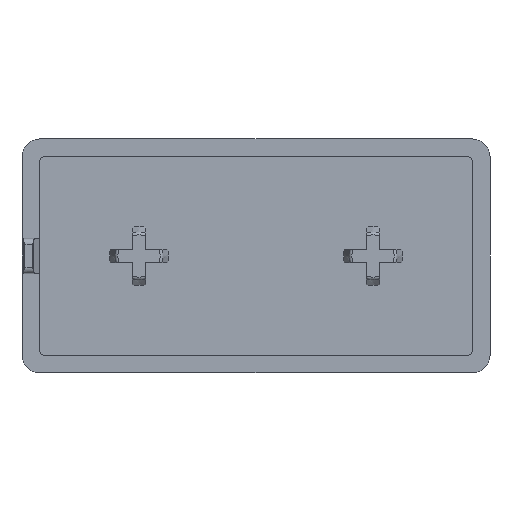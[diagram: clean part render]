
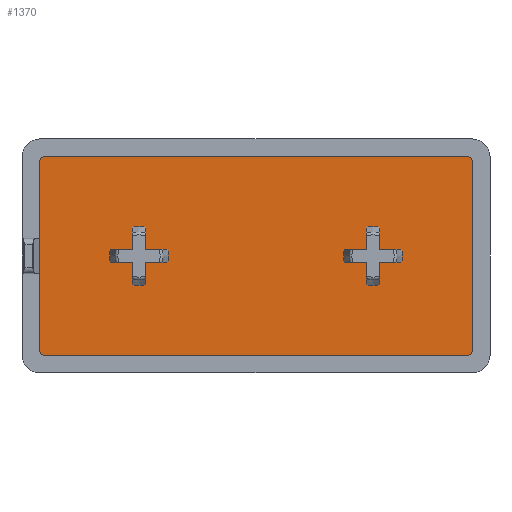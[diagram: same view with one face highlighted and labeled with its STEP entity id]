
A CAD part, front view. The second image highlights one B-rep face of the part: STEP entity #1370.
In plain terms, the highlighted planar face has unit normal (0, -1, 0).
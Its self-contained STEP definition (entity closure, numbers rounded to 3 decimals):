
#87=CIRCLE('',#1438,5.05);
#88=CIRCLE('',#1440,5.05);
#89=CIRCLE('',#1442,5.05);
#90=CIRCLE('',#1444,5.05);
#93=CIRCLE('',#1448,5.05);
#95=CIRCLE('',#1451,5.05);
#122=CIRCLE('',#1503,1.);
#123=CIRCLE('',#1506,1.);
#124=CIRCLE('',#1509,1.);
#125=CIRCLE('',#1512,1.);
#126=CIRCLE('',#1514,5.05);
#127=CIRCLE('',#1515,5.05);
#374=ORIENTED_EDGE('',*,*,#574,.F.);
#375=ORIENTED_EDGE('',*,*,#712,.F.);
#376=ORIENTED_EDGE('',*,*,#710,.F.);
#377=ORIENTED_EDGE('',*,*,#708,.F.);
#378=ORIENTED_EDGE('',*,*,#706,.F.);
#379=ORIENTED_EDGE('',*,*,#704,.F.);
#380=ORIENTED_EDGE('',*,*,#702,.F.);
#381=ORIENTED_EDGE('',*,*,#700,.F.);
#382=ORIENTED_EDGE('',*,*,#713,.F.);
#383=ORIENTED_EDGE('',*,*,#714,.T.);
#384=ORIENTED_EDGE('',*,*,#715,.T.);
#385=ORIENTED_EDGE('',*,*,#632,.F.);
#386=ORIENTED_EDGE('',*,*,#716,.T.);
#387=ORIENTED_EDGE('',*,*,#717,.T.);
#388=ORIENTED_EDGE('',*,*,#626,.F.);
#389=ORIENTED_EDGE('',*,*,#718,.T.);
#390=ORIENTED_EDGE('',*,*,#719,.T.);
#391=ORIENTED_EDGE('',*,*,#636,.F.);
#392=ORIENTED_EDGE('',*,*,#720,.T.);
#393=ORIENTED_EDGE('',*,*,#721,.T.);
#394=ORIENTED_EDGE('',*,*,#722,.F.);
#395=ORIENTED_EDGE('',*,*,#723,.T.);
#396=ORIENTED_EDGE('',*,*,#724,.T.);
#397=ORIENTED_EDGE('',*,*,#624,.F.);
#398=ORIENTED_EDGE('',*,*,#725,.T.);
#399=ORIENTED_EDGE('',*,*,#726,.T.);
#400=ORIENTED_EDGE('',*,*,#621,.F.);
#401=ORIENTED_EDGE('',*,*,#727,.T.);
#402=ORIENTED_EDGE('',*,*,#728,.T.);
#403=ORIENTED_EDGE('',*,*,#618,.F.);
#404=ORIENTED_EDGE('',*,*,#729,.T.);
#405=ORIENTED_EDGE('',*,*,#730,.T.);
#574=EDGE_CURVE('',#779,#780,#911,.T.);
#618=EDGE_CURVE('',#813,#814,#87,.F.);
#621=EDGE_CURVE('',#815,#816,#88,.F.);
#624=EDGE_CURVE('',#817,#818,#89,.F.);
#626=EDGE_CURVE('',#819,#820,#90,.F.);
#632=EDGE_CURVE('',#825,#826,#93,.F.);
#636=EDGE_CURVE('',#829,#830,#95,.F.);
#700=EDGE_CURVE('',#780,#869,#122,.T.);
#702=EDGE_CURVE('',#869,#870,#962,.T.);
#704=EDGE_CURVE('',#870,#871,#123,.T.);
#706=EDGE_CURVE('',#871,#872,#965,.T.);
#708=EDGE_CURVE('',#872,#873,#124,.T.);
#710=EDGE_CURVE('',#873,#874,#968,.T.);
#712=EDGE_CURVE('',#874,#779,#125,.T.);
#713=EDGE_CURVE('',#875,#876,#126,.F.);
#714=EDGE_CURVE('',#875,#877,#970,.T.);
#715=EDGE_CURVE('',#877,#826,#971,.T.);
#716=EDGE_CURVE('',#825,#878,#972,.T.);
#717=EDGE_CURVE('',#878,#820,#973,.T.);
#718=EDGE_CURVE('',#819,#879,#974,.T.);
#719=EDGE_CURVE('',#879,#830,#975,.T.);
#720=EDGE_CURVE('',#829,#880,#976,.T.);
#721=EDGE_CURVE('',#880,#876,#977,.T.);
#722=EDGE_CURVE('',#881,#882,#127,.F.);
#723=EDGE_CURVE('',#881,#883,#978,.T.);
#724=EDGE_CURVE('',#883,#818,#979,.T.);
#725=EDGE_CURVE('',#817,#884,#980,.T.);
#726=EDGE_CURVE('',#884,#816,#981,.T.);
#727=EDGE_CURVE('',#815,#885,#982,.T.);
#728=EDGE_CURVE('',#885,#814,#983,.T.);
#729=EDGE_CURVE('',#813,#886,#984,.T.);
#730=EDGE_CURVE('',#886,#882,#985,.T.);
#779=VERTEX_POINT('',#1947);
#780=VERTEX_POINT('',#1949);
#813=VERTEX_POINT('',#2085);
#814=VERTEX_POINT('',#2087);
#815=VERTEX_POINT('',#2091);
#816=VERTEX_POINT('',#2093);
#817=VERTEX_POINT('',#2097);
#818=VERTEX_POINT('',#2099);
#819=VERTEX_POINT('',#2103);
#820=VERTEX_POINT('',#2104);
#825=VERTEX_POINT('',#2115);
#826=VERTEX_POINT('',#2117);
#829=VERTEX_POINT('',#2124);
#830=VERTEX_POINT('',#2126);
#869=VERTEX_POINT('',#2290);
#870=VERTEX_POINT('',#2294);
#871=VERTEX_POINT('',#2298);
#872=VERTEX_POINT('',#2302);
#873=VERTEX_POINT('',#2306);
#874=VERTEX_POINT('',#2310);
#875=VERTEX_POINT('',#2316);
#876=VERTEX_POINT('',#2317);
#877=VERTEX_POINT('',#2319);
#878=VERTEX_POINT('',#2322);
#879=VERTEX_POINT('',#2325);
#880=VERTEX_POINT('',#2328);
#881=VERTEX_POINT('',#2331);
#882=VERTEX_POINT('',#2332);
#883=VERTEX_POINT('',#2334);
#884=VERTEX_POINT('',#2337);
#885=VERTEX_POINT('',#2340);
#886=VERTEX_POINT('',#2343);
#911=LINE('',#1948,#1020);
#962=LINE('',#2293,#1071);
#965=LINE('',#2301,#1074);
#968=LINE('',#2309,#1077);
#970=LINE('',#2318,#1079);
#971=LINE('',#2320,#1080);
#972=LINE('',#2321,#1081);
#973=LINE('',#2323,#1082);
#974=LINE('',#2324,#1083);
#975=LINE('',#2326,#1084);
#976=LINE('',#2327,#1085);
#977=LINE('',#2329,#1086);
#978=LINE('',#2333,#1087);
#979=LINE('',#2335,#1088);
#980=LINE('',#2336,#1089);
#981=LINE('',#2338,#1090);
#982=LINE('',#2339,#1091);
#983=LINE('',#2341,#1092);
#984=LINE('',#2342,#1093);
#985=LINE('',#2344,#1094);
#1020=VECTOR('',#1558,1000.);
#1071=VECTOR('',#1793,1000.);
#1074=VECTOR('',#1802,1000.);
#1077=VECTOR('',#1811,1000.);
#1079=VECTOR('',#1821,1000.);
#1080=VECTOR('',#1822,1000.);
#1081=VECTOR('',#1823,1000.);
#1082=VECTOR('',#1824,1000.);
#1083=VECTOR('',#1825,1000.);
#1084=VECTOR('',#1826,1000.);
#1085=VECTOR('',#1827,1000.);
#1086=VECTOR('',#1828,1000.);
#1087=VECTOR('',#1831,1000.);
#1088=VECTOR('',#1832,1000.);
#1089=VECTOR('',#1833,1000.);
#1090=VECTOR('',#1834,1000.);
#1091=VECTOR('',#1835,1000.);
#1092=VECTOR('',#1836,1000.);
#1093=VECTOR('',#1837,1000.);
#1094=VECTOR('',#1838,1000.);
#1175=EDGE_LOOP('',(#374,#375,#376,#377,#378,#379,#380,#381));
#1176=EDGE_LOOP('',(#382,#383,#384,#385,#386,#387,#388,#389,#390,#391,#392,
#393));
#1177=EDGE_LOOP('',(#394,#395,#396,#397,#398,#399,#400,#401,#402,#403,#404,
#405));
#1256=FACE_BOUND('',#1175,.T.);
#1257=FACE_BOUND('',#1176,.T.);
#1258=FACE_BOUND('',#1177,.T.);
#1300=PLANE('',#1513);
#1370=ADVANCED_FACE('',(#1256,#1257,#1258),#1300,.F.);
#1438=AXIS2_PLACEMENT_3D('',#2086,#1623,#1624);
#1440=AXIS2_PLACEMENT_3D('',#2092,#1629,#1630);
#1442=AXIS2_PLACEMENT_3D('',#2098,#1635,#1636);
#1444=AXIS2_PLACEMENT_3D('',#2102,#1640,#1641);
#1448=AXIS2_PLACEMENT_3D('',#2116,#1651,#1652);
#1451=AXIS2_PLACEMENT_3D('',#2125,#1659,#1660);
#1503=AXIS2_PLACEMENT_3D('',#2289,#1788,#1789);
#1506=AXIS2_PLACEMENT_3D('',#2297,#1797,#1798);
#1509=AXIS2_PLACEMENT_3D('',#2305,#1806,#1807);
#1512=AXIS2_PLACEMENT_3D('',#2313,#1815,#1816);
#1513=AXIS2_PLACEMENT_3D('',#2314,#1817,#1818);
#1514=AXIS2_PLACEMENT_3D('',#2315,#1819,#1820);
#1515=AXIS2_PLACEMENT_3D('',#2330,#1829,#1830);
#1558=DIRECTION('',(0.,0.,1.));
#1623=DIRECTION('',(0.,1.,0.));
#1624=DIRECTION('',(0.,0.,1.));
#1629=DIRECTION('',(0.,1.,0.));
#1630=DIRECTION('',(0.,0.,1.));
#1635=DIRECTION('',(0.,1.,0.));
#1636=DIRECTION('',(0.,0.,1.));
#1640=DIRECTION('',(0.,1.,0.));
#1641=DIRECTION('',(0.,0.,1.));
#1651=DIRECTION('',(0.,1.,0.));
#1652=DIRECTION('',(0.,0.,1.));
#1659=DIRECTION('',(0.,1.,0.));
#1660=DIRECTION('',(0.,0.,1.));
#1788=DIRECTION('',(0.,1.,0.));
#1789=DIRECTION('',(1.,0.,0.));
#1793=DIRECTION('',(1.,0.,0.));
#1797=DIRECTION('',(0.,1.,0.));
#1798=DIRECTION('',(1.,0.,0.));
#1802=DIRECTION('',(0.,0.,-1.));
#1806=DIRECTION('',(0.,1.,0.));
#1807=DIRECTION('',(1.,0.,0.));
#1811=DIRECTION('',(-1.,0.,0.));
#1815=DIRECTION('',(0.,1.,0.));
#1816=DIRECTION('',(1.,0.,0.));
#1817=DIRECTION('',(0.,1.,0.));
#1818=DIRECTION('',(0.,0.,1.));
#1819=DIRECTION('',(0.,1.,0.));
#1820=DIRECTION('',(0.,0.,1.));
#1821=DIRECTION('',(-1.,0.,0.));
#1822=DIRECTION('',(0.,0.,-1.));
#1823=DIRECTION('',(0.,0.,1.));
#1824=DIRECTION('',(-1.,0.,0.));
#1825=DIRECTION('',(1.,0.,0.));
#1826=DIRECTION('',(0.,0.,1.));
#1827=DIRECTION('',(0.,0.,-1.));
#1828=DIRECTION('',(1.,0.,0.));
#1829=DIRECTION('',(0.,1.,0.));
#1830=DIRECTION('',(0.,0.,1.));
#1831=DIRECTION('',(1.,0.,0.));
#1832=DIRECTION('',(0.,0.,1.));
#1833=DIRECTION('',(0.,0.,-1.));
#1834=DIRECTION('',(1.,0.,0.));
#1835=DIRECTION('',(-1.,0.,0.));
#1836=DIRECTION('',(0.,0.,-1.));
#1837=DIRECTION('',(0.,0.,1.));
#1838=DIRECTION('',(-1.,0.,0.));
#1947=CARTESIAN_POINT('',(-37.,-3.,-16.));
#1948=CARTESIAN_POINT('',(-37.,-3.,-16.));
#1949=CARTESIAN_POINT('',(-37.,-3.,16.));
#2085=CARTESIAN_POINT('',(18.825,-3.,-4.911));
#2086=CARTESIAN_POINT('',(20.,-3.,0.));
#2087=CARTESIAN_POINT('',(21.175,-3.,-4.911));
#2091=CARTESIAN_POINT('',(24.911,-3.,-1.175));
#2092=CARTESIAN_POINT('',(20.,-3.,0.));
#2093=CARTESIAN_POINT('',(24.911,-3.,1.175));
#2097=CARTESIAN_POINT('',(21.175,-3.,4.911));
#2098=CARTESIAN_POINT('',(20.,-3.,0.));
#2099=CARTESIAN_POINT('',(18.825,-3.,4.911));
#2102=CARTESIAN_POINT('',(-20.,-3.,0.));
#2103=CARTESIAN_POINT('',(-24.911,-3.,1.175));
#2104=CARTESIAN_POINT('',(-24.911,-3.,-1.175));
#2115=CARTESIAN_POINT('',(-21.175,-3.,-4.911));
#2116=CARTESIAN_POINT('',(-20.,-3.,0.));
#2117=CARTESIAN_POINT('',(-18.825,-3.,-4.911));
#2124=CARTESIAN_POINT('',(-18.825,-3.,4.911));
#2125=CARTESIAN_POINT('',(-20.,-3.,0.));
#2126=CARTESIAN_POINT('',(-21.175,-3.,4.911));
#2289=CARTESIAN_POINT('',(-36.,-3.,16.));
#2290=CARTESIAN_POINT('',(-36.,-3.,17.));
#2293=CARTESIAN_POINT('',(-36.,-3.,17.));
#2294=CARTESIAN_POINT('',(36.,-3.,17.));
#2297=CARTESIAN_POINT('',(36.,-3.,16.));
#2298=CARTESIAN_POINT('',(37.,-3.,16.));
#2301=CARTESIAN_POINT('',(37.,-3.,16.));
#2302=CARTESIAN_POINT('',(37.,-3.,-16.));
#2305=CARTESIAN_POINT('',(36.,-3.,-16.));
#2306=CARTESIAN_POINT('',(36.,-3.,-17.));
#2309=CARTESIAN_POINT('',(36.,-3.,-17.));
#2310=CARTESIAN_POINT('',(-36.,-3.,-17.));
#2313=CARTESIAN_POINT('',(-36.,-3.,-16.));
#2314=CARTESIAN_POINT('',(-36.,-3.,16.));
#2315=CARTESIAN_POINT('',(-20.,-3.,0.));
#2316=CARTESIAN_POINT('',(-15.089,-3.,-1.175));
#2317=CARTESIAN_POINT('',(-15.089,-3.,1.175));
#2318=CARTESIAN_POINT('',(-15.089,-3.,-1.175));
#2319=CARTESIAN_POINT('',(-18.825,-3.,-1.175));
#2320=CARTESIAN_POINT('',(-18.825,-3.,-1.175));
#2321=CARTESIAN_POINT('',(-21.175,-3.,-4.911));
#2322=CARTESIAN_POINT('',(-21.175,-3.,-1.175));
#2323=CARTESIAN_POINT('',(-21.175,-3.,-1.175));
#2324=CARTESIAN_POINT('',(-24.911,-3.,1.175));
#2325=CARTESIAN_POINT('',(-21.175,-3.,1.175));
#2326=CARTESIAN_POINT('',(-21.175,-3.,1.175));
#2327=CARTESIAN_POINT('',(-18.825,-3.,4.911));
#2328=CARTESIAN_POINT('',(-18.825,-3.,1.175));
#2329=CARTESIAN_POINT('',(-18.825,-3.,1.175));
#2330=CARTESIAN_POINT('',(20.,-3.,0.));
#2331=CARTESIAN_POINT('',(15.089,-3.,1.175));
#2332=CARTESIAN_POINT('',(15.089,-3.,-1.175));
#2333=CARTESIAN_POINT('',(15.089,-3.,1.175));
#2334=CARTESIAN_POINT('',(18.825,-3.,1.175));
#2335=CARTESIAN_POINT('',(18.825,-3.,1.175));
#2336=CARTESIAN_POINT('',(21.175,-3.,4.911));
#2337=CARTESIAN_POINT('',(21.175,-3.,1.175));
#2338=CARTESIAN_POINT('',(21.175,-3.,1.175));
#2339=CARTESIAN_POINT('',(24.911,-3.,-1.175));
#2340=CARTESIAN_POINT('',(21.175,-3.,-1.175));
#2341=CARTESIAN_POINT('',(21.175,-3.,-1.175));
#2342=CARTESIAN_POINT('',(18.825,-3.,-4.911));
#2343=CARTESIAN_POINT('',(18.825,-3.,-1.175));
#2344=CARTESIAN_POINT('',(18.825,-3.,-1.175));
